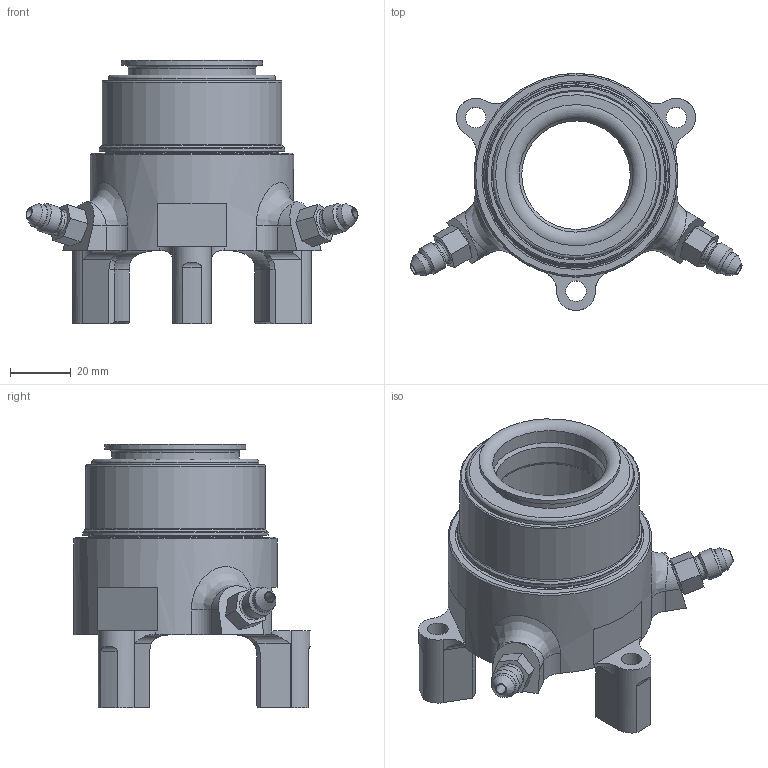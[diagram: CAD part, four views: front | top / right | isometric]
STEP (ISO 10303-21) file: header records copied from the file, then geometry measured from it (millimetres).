
FILE_DESCRIPTION(/* description */ ('Unknown'),/* implementation_level */ '2;1');
FILE_NAME(/* name */ '60-3260 ASSEMBLY',/* time_stamp */ '2020-03-06T12:25:24-08:00',/* author */ ('Unknown'),/* organization */ ('Unknown'),/* preprocessor_version */ 'ST-DEVELOPER v16.7',/* originating_system */ 'DEX',/* authorisation */ $);
FILE_SCHEMA (('AUTOMOTIVE_DESIGN {1 0 10303 214 3 1 1}'));
Length unit declared in the file: millimetre
Products named in the file (1): 60-3260 ASSEMBLY
Bounding box: 109.26 x 77.98 x 86.88 mm (x, y, z)
Volume: 125916.3 mm3; surface area: 40461.2 mm2
Topology: 2 solids, 2 shells, 175 faces, 434 edges, 273 vertices
Faces by surface type: plane 60, cylinder 53, torus 26, cone 22, bspline 14
Full cylindrical faces by diameter (mm): 3.175 x2, 6.746 x3, 7.734 x2, 7.925 x4, 9.525 x2, 35.7 x1, 37.49 x1, 38.1 x1, 41.984 x1, 46.457 x1, 47.714 x1, 54.991 x1, 54.997 x1, 57.061 x1, 59.182 x1, 60.96 x1, 61.925 x1, 67.056 x1
Entity records: 6634 total; most frequent: CARTESIAN_POINT 1684, DIRECTION 777, ORIENTED_EDGE 710, EDGE_CURVE 355, AXIS2_PLACEMENT_3D 320, FACE_BOUND 260, VERTEX_POINT 259, EDGE_LOOP 258
